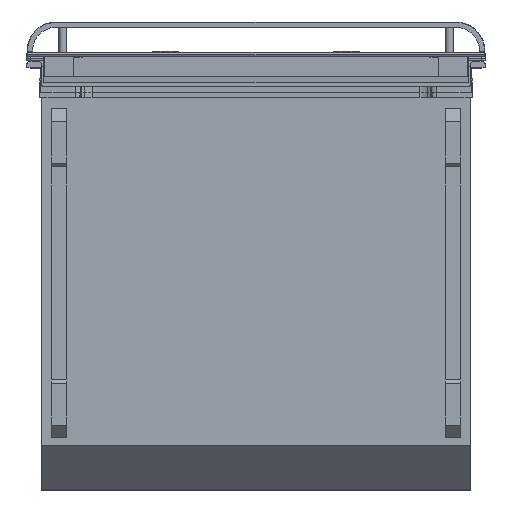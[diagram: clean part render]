
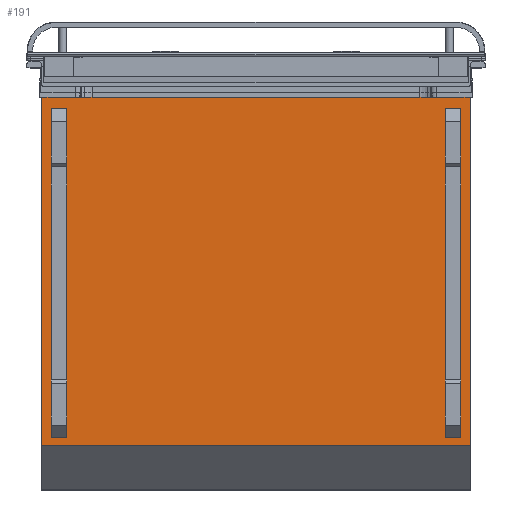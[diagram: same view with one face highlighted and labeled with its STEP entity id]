
A CAD part, front view. The second image highlights one B-rep face of the part: STEP entity #191.
In plain terms, the highlighted planar face has unit normal (0, -1, 0).
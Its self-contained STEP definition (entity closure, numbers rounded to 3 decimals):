
#191 = ADVANCED_FACE ( 'NONE', ( #17535, #16514, #16979 ), #14063, .T. ) ;
#709 = CARTESIAN_POINT ( 'NONE',  ( 277.55, 159.793, 569.293 ) ) ;
#737 = EDGE_CURVE ( 'NONE', #20002, #20971, #10242, .T. ) ;
#925 = EDGE_CURVE ( 'NONE', #20263, #16086, #8681, .T. ) ;
#931 = EDGE_CURVE ( 'NONE', #2616, #20002, #8237, .T. ) ;
#1181 = ORIENTED_EDGE ( 'NONE', *, *, #5420, .T. ) ;
#1966 = EDGE_LOOP ( 'NONE', ( #11980, #19441, #14629, #1181 ) ) ;
#1996 = ORIENTED_EDGE ( 'NONE', *, *, #931, .T. ) ;
#1998 = CARTESIAN_POINT ( 'NONE',  ( 245., 159.793, 116.043 ) ) ;
#2141 = VECTOR ( 'NONE', #19688, 1000. ) ;
#2203 = VERTEX_POINT ( 'NONE', #709 ) ;
#2329 = EDGE_CURVE ( 'NONE', #17313, #15754, #13891, .T. ) ;
#2467 = VECTOR ( 'NONE', #9141, 1000. ) ;
#2517 = LINE ( 'NONE', #18700, #2141 ) ;
#2604 = VECTOR ( 'NONE', #6068, 1000. ) ;
#2616 = VERTEX_POINT ( 'NONE', #2928 ) ;
#2665 = VECTOR ( 'NONE', #10135, 1000. ) ;
#2811 = LINE ( 'NONE', #9716, #2467 ) ;
#2928 = CARTESIAN_POINT ( 'NONE',  ( -277.55, 159.793, 569.293 ) ) ;
#2952 = LINE ( 'NONE', #12264, #2665 ) ;
#3165 = CARTESIAN_POINT ( 'NONE',  ( -265., 159.793, 116.043 ) ) ;
#3229 = ORIENTED_EDGE ( 'NONE', *, *, #3701, .T. ) ;
#3701 = EDGE_CURVE ( 'NONE', #16086, #15754, #2517, .T. ) ;
#3994 = CARTESIAN_POINT ( 'NONE',  ( -277.55, 159.793, 105.655 ) ) ;
#4408 = VERTEX_POINT ( 'NONE', #19723 ) ;
#4591 = LINE ( 'NONE', #9868, #4824 ) ;
#4616 = EDGE_CURVE ( 'NONE', #4408, #19565, #14770, .T. ) ;
#4824 = VECTOR ( 'NONE', #9702, 1000. ) ;
#5320 = CARTESIAN_POINT ( 'NONE',  ( -277.55, 159.793, 569.293 ) ) ;
#5420 = EDGE_CURVE ( 'NONE', #18759, #19565, #7130, .T. ) ;
#5519 = EDGE_CURVE ( 'NONE', #20263, #17313, #4591, .T. ) ;
#5651 = CARTESIAN_POINT ( 'NONE',  ( -265., 159.793, 541.543 ) ) ;
#5653 = CARTESIAN_POINT ( 'NONE',  ( 245., 159.793, 116.043 ) ) ;
#5671 = DIRECTION ( 'NONE',  ( 0., 0., 1. ) ) ;
#6068 = DIRECTION ( 'NONE',  ( 0., 0., 1. ) ) ;
#6093 = CARTESIAN_POINT ( 'NONE',  ( 265., 159.793, 116.043 ) ) ;
#6169 = VERTEX_POINT ( 'NONE', #16152 ) ;
#6479 = EDGE_CURVE ( 'NONE', #6169, #18759, #8061, .T. ) ;
#6542 = ORIENTED_EDGE ( 'NONE', *, *, #18653, .F. ) ;
#6605 = VECTOR ( 'NONE', #5671, 1000. ) ;
#7130 = LINE ( 'NONE', #5653, #6605 ) ;
#7478 = DIRECTION ( 'NONE',  ( 0., -1., 0. ) ) ;
#7798 = VECTOR ( 'NONE', #11315, 1000. ) ;
#7985 = DIRECTION ( 'NONE',  ( -1., 0., 0. ) ) ;
#8061 = LINE ( 'NONE', #14894, #7798 ) ;
#8142 = VECTOR ( 'NONE', #9548, 1000. ) ;
#8237 = LINE ( 'NONE', #8995, #8142 ) ;
#8283 = ORIENTED_EDGE ( 'NONE', *, *, #925, .T. ) ;
#8639 = VECTOR ( 'NONE', #9039, 1000. ) ;
#8681 = LINE ( 'NONE', #3165, #8639 ) ;
#8995 = CARTESIAN_POINT ( 'NONE',  ( -277.55, 159.793, 569.293 ) ) ;
#9039 = DIRECTION ( 'NONE',  ( 0., 0., 1. ) ) ;
#9141 = DIRECTION ( 'NONE',  ( 1., 0., 0. ) ) ;
#9163 = CARTESIAN_POINT ( 'NONE',  ( 265., 159.793, 541.543 ) ) ;
#9291 = ORIENTED_EDGE ( 'NONE', *, *, #737, .T. ) ;
#9548 = DIRECTION ( 'NONE',  ( 0., 0., -1. ) ) ;
#9702 = DIRECTION ( 'NONE',  ( 1., 0., 0. ) ) ;
#9716 = CARTESIAN_POINT ( 'NONE',  ( -277.55, 159.793, 569.293 ) ) ;
#9868 = CARTESIAN_POINT ( 'NONE',  ( -265., 159.793, 116.043 ) ) ;
#9944 = VECTOR ( 'NONE', #20344, 1000. ) ;
#10135 = DIRECTION ( 'NONE',  ( 0., 0., -1. ) ) ;
#10242 = LINE ( 'NONE', #3994, #9944 ) ;
#10962 = CARTESIAN_POINT ( 'NONE',  ( -245., 159.793, 541.543 ) ) ;
#11315 = DIRECTION ( 'NONE',  ( -1., 0., 0. ) ) ;
#11871 = CARTESIAN_POINT ( 'NONE',  ( -265., 159.793, 116.043 ) ) ;
#11980 = ORIENTED_EDGE ( 'NONE', *, *, #4616, .F. ) ;
#12264 = CARTESIAN_POINT ( 'NONE',  ( 277.55, 159.793, 569.293 ) ) ;
#12289 = DIRECTION ( 'NONE',  ( 0., 0., -1. ) ) ;
#13022 = EDGE_LOOP ( 'NONE', ( #6542, #14173, #1996, #9291 ) ) ;
#13802 = VECTOR ( 'NONE', #15737, 1000. ) ;
#13891 = LINE ( 'NONE', #15671, #13802 ) ;
#14063 = PLANE ( 'NONE',  #15272 ) ;
#14173 = ORIENTED_EDGE ( 'NONE', *, *, #18658, .F. ) ;
#14629 = ORIENTED_EDGE ( 'NONE', *, *, #6479, .T. ) ;
#14770 = LINE ( 'NONE', #9163, #17279 ) ;
#14894 = CARTESIAN_POINT ( 'NONE',  ( 265., 159.793, 116.043 ) ) ;
#15272 = AXIS2_PLACEMENT_3D ( 'NONE', #5320, #7478, #12289 ) ;
#15671 = CARTESIAN_POINT ( 'NONE',  ( -245., 159.793, 116.043 ) ) ;
#15737 = DIRECTION ( 'NONE',  ( 0., 0., 1. ) ) ;
#15754 = VERTEX_POINT ( 'NONE', #10962 ) ;
#15910 = ORIENTED_EDGE ( 'NONE', *, *, #5519, .F. ) ;
#16031 = EDGE_CURVE ( 'NONE', #6169, #4408, #20910, .T. ) ;
#16086 = VERTEX_POINT ( 'NONE', #5651 ) ;
#16152 = CARTESIAN_POINT ( 'NONE',  ( 265., 159.793, 116.043 ) ) ;
#16364 = EDGE_LOOP ( 'NONE', ( #15910, #8283, #3229, #19782 ) ) ;
#16514 = FACE_BOUND ( 'NONE', #1966, .T. ) ;
#16616 = CARTESIAN_POINT ( 'NONE',  ( 277.55, 159.793, 105.655 ) ) ;
#16979 = FACE_BOUND ( 'NONE', #16364, .T. ) ;
#17279 = VECTOR ( 'NONE', #7985, 1000. ) ;
#17313 = VERTEX_POINT ( 'NONE', #19462 ) ;
#17535 = FACE_OUTER_BOUND ( 'NONE', #13022, .T. ) ;
#18153 = CARTESIAN_POINT ( 'NONE',  ( 245., 159.793, 541.543 ) ) ;
#18653 = EDGE_CURVE ( 'NONE', #2203, #20971, #2952, .T. ) ;
#18658 = EDGE_CURVE ( 'NONE', #2616, #2203, #2811, .T. ) ;
#18700 = CARTESIAN_POINT ( 'NONE',  ( -265., 159.793, 541.543 ) ) ;
#18759 = VERTEX_POINT ( 'NONE', #1998 ) ;
#18899 = CARTESIAN_POINT ( 'NONE',  ( -277.55, 159.793, 105.655 ) ) ;
#19441 = ORIENTED_EDGE ( 'NONE', *, *, #16031, .F. ) ;
#19462 = CARTESIAN_POINT ( 'NONE',  ( -245., 159.793, 116.043 ) ) ;
#19565 = VERTEX_POINT ( 'NONE', #18153 ) ;
#19688 = DIRECTION ( 'NONE',  ( 1., 0., 0. ) ) ;
#19723 = CARTESIAN_POINT ( 'NONE',  ( 265., 159.793, 541.543 ) ) ;
#19782 = ORIENTED_EDGE ( 'NONE', *, *, #2329, .F. ) ;
#20002 = VERTEX_POINT ( 'NONE', #18899 ) ;
#20263 = VERTEX_POINT ( 'NONE', #11871 ) ;
#20344 = DIRECTION ( 'NONE',  ( 1., 0., 0. ) ) ;
#20910 = LINE ( 'NONE', #6093, #2604 ) ;
#20971 = VERTEX_POINT ( 'NONE', #16616 ) ;
